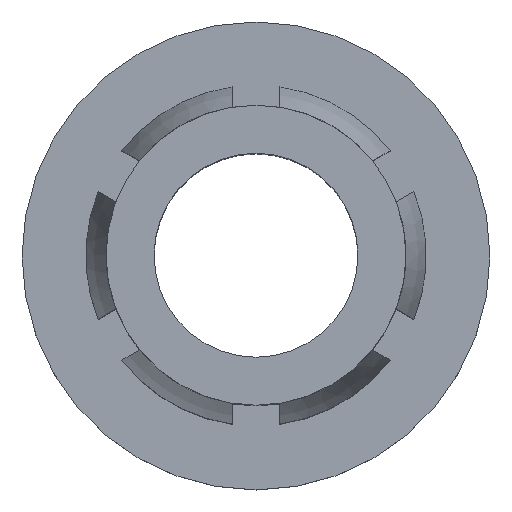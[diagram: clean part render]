
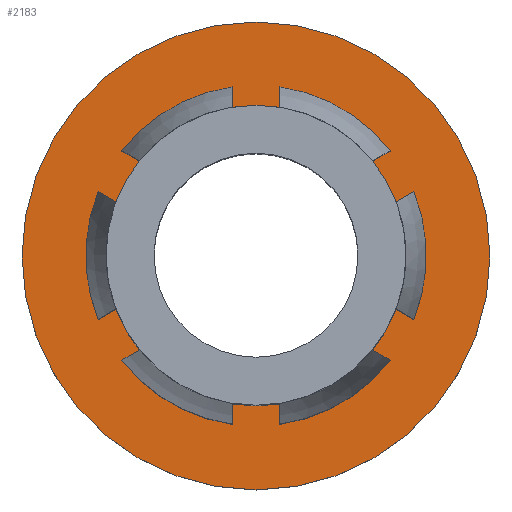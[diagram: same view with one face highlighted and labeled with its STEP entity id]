
A CAD part, top view. The second image highlights one B-rep face of the part: STEP entity #2183.
In plain terms, the highlighted planar face has unit normal (0, 0, 1).
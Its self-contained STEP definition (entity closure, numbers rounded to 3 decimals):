
#125 = ORIENTED_EDGE ( 'NONE', *, *, #881, .F. ) ;
#186 = DIRECTION ( 'NONE',  ( -1., 0., 0. ) ) ;
#278 = ORIENTED_EDGE ( 'NONE', *, *, #3128, .T. ) ;
#383 = CARTESIAN_POINT ( 'NONE',  ( 4.975, 0., -19.146 ) ) ;
#624 = DIRECTION ( 'NONE',  ( 0., 0., -1. ) ) ;
#781 = AXIS2_PLACEMENT_3D ( 'NONE', #3363, #1798, #186 ) ;
#881 = EDGE_CURVE ( 'NONE', #2042, #2042, #2954, .T. ) ;
#939 = CARTESIAN_POINT ( 'NONE',  ( 6.398, 0., -19.146 ) ) ;
#972 = EDGE_LOOP ( 'NONE', ( #125 ) ) ;
#1097 = FACE_OUTER_BOUND ( 'NONE', #972, .T. ) ;
#1259 = CIRCLE ( 'NONE', #2350, 2.54 ) ;
#1394 = CARTESIAN_POINT ( 'NONE',  ( 8.938, 0., -19.146 ) ) ;
#1661 = DIRECTION ( 'NONE',  ( -1., 0., 0. ) ) ;
#1798 = DIRECTION ( 'NONE',  ( 0., 0., -1. ) ) ;
#1815 = FACE_BOUND ( 'NONE', #1860, .T. ) ;
#1860 = EDGE_LOOP ( 'NONE', ( #278 ) ) ;
#2042 = VERTEX_POINT ( 'NONE', #383 ) ;
#2114 = AXIS2_PLACEMENT_3D ( 'NONE', #2212, #624, #2472 ) ;
#2183 = ADVANCED_FACE ( 'NONE', ( #1815, #1097 ), #2958, .F. ) ;
#2212 = CARTESIAN_POINT ( 'NONE',  ( 12.9, 0., -19.146 ) ) ;
#2350 = AXIS2_PLACEMENT_3D ( 'NONE', #1394, #3223, #1661 ) ;
#2472 = DIRECTION ( 'NONE',  ( -1., 0., 0. ) ) ;
#2647 = VERTEX_POINT ( 'NONE', #939 ) ;
#2954 = CIRCLE ( 'NONE', #781, 3.962 ) ;
#2958 = PLANE ( 'NONE',  #2114 ) ;
#3128 = EDGE_CURVE ( 'NONE', #2647, #2647, #1259, .T. ) ;
#3223 = DIRECTION ( 'NONE',  ( 0., 0., -1. ) ) ;
#3363 = CARTESIAN_POINT ( 'NONE',  ( 8.938, 0., -19.146 ) ) ;
